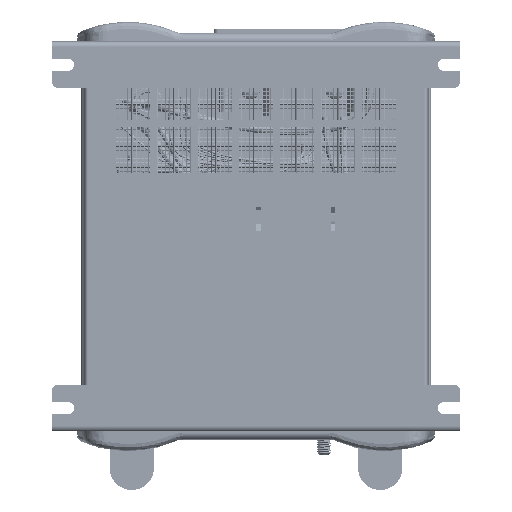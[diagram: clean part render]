
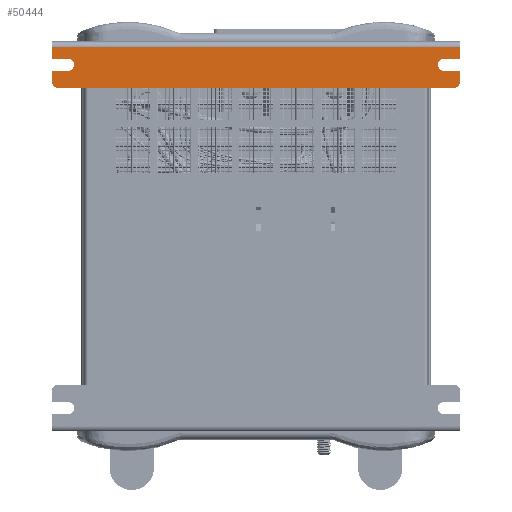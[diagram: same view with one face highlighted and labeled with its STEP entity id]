
A CAD part, front view. The second image highlights one B-rep face of the part: STEP entity #50444.
In plain terms, the highlighted planar face has unit normal (0, -1, 0).
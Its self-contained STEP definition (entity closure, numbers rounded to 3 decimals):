
#48768=DIRECTION('',(0.,0.,1.));
#48769=VECTOR('',#48768,5.2);
#48770=CARTESIAN_POINT('',(87.5,-22.,-6.4));
#48771=LINE('',#48770,#48769);
#48785=DIRECTION('',(0.,0.,1.));
#48786=VECTOR('',#48785,4.4);
#48787=CARTESIAN_POINT('',(87.5,-22.,-16.));
#48788=LINE('',#48787,#48786);
#48797=CARTESIAN_POINT('',(-84.5,-22.,-16.));
#48798=DIRECTION('',(0.,-1.,0.));
#48799=DIRECTION('',(-1.,0.,0.));
#48800=AXIS2_PLACEMENT_3D('',#48797,#48798,#48799);
#48802=DIRECTION('',(1.,0.,0.));
#48803=VECTOR('',#48802,7.);
#48804=CARTESIAN_POINT('',(-87.5,-22.,-11.6));
#48805=LINE('',#48804,#48803);
#48806=CARTESIAN_POINT('',(-80.5,-22.,-9.));
#48807=DIRECTION('',(0.,1.,0.));
#48808=DIRECTION('',(0.,0.,1.));
#48809=AXIS2_PLACEMENT_3D('',#48806,#48807,#48808);
#48811=DIRECTION('',(1.,0.,0.));
#48812=VECTOR('',#48811,7.);
#48813=CARTESIAN_POINT('',(-87.5,-22.,-6.4));
#48814=LINE('',#48813,#48812);
#48815=DIRECTION('',(1.,0.,0.));
#48816=VECTOR('',#48815,175.);
#48817=CARTESIAN_POINT('',(-87.5,-22.,-1.2));
#48818=LINE('',#48817,#48816);
#48819=DIRECTION('',(-1.,0.,0.));
#48820=VECTOR('',#48819,7.);
#48821=CARTESIAN_POINT('',(87.5,-22.,-6.4));
#48822=LINE('',#48821,#48820);
#48823=CARTESIAN_POINT('',(80.5,-22.,-9.));
#48824=DIRECTION('',(0.,1.,0.));
#48825=DIRECTION('',(0.,0.,-1.));
#48826=AXIS2_PLACEMENT_3D('',#48823,#48824,#48825);
#48828=DIRECTION('',(-1.,0.,0.));
#48829=VECTOR('',#48828,7.);
#48830=CARTESIAN_POINT('',(87.5,-22.,-11.6));
#48831=LINE('',#48830,#48829);
#48832=CARTESIAN_POINT('',(84.5,-22.,-16.));
#48833=DIRECTION('',(0.,-1.,0.));
#48834=DIRECTION('',(0.,0.,-1.));
#48835=AXIS2_PLACEMENT_3D('',#48832,#48833,#48834);
#48837=DIRECTION('',(1.,0.,0.));
#48838=VECTOR('',#48837,169.);
#48839=CARTESIAN_POINT('',(-84.5,-22.,-19.));
#48840=LINE('',#48839,#48838);
#48936=DIRECTION('',(0.,0.,-1.));
#48937=VECTOR('',#48936,5.2);
#48938=CARTESIAN_POINT('',(-87.5,-22.,-1.2));
#48939=LINE('',#48938,#48937);
#48948=DIRECTION('',(0.,0.,-1.));
#48949=VECTOR('',#48948,4.4);
#48950=CARTESIAN_POINT('',(-87.5,-22.,-11.6));
#48951=LINE('',#48950,#48949);
#49532=CARTESIAN_POINT('',(-87.5,-22.,-6.4));
#49534=VERTEX_POINT('',#49532);
#49536=CARTESIAN_POINT('',(-87.5,-22.,-11.6));
#49538=VERTEX_POINT('',#49536);
#49540=CARTESIAN_POINT('',(-80.5,-22.,-6.4));
#49541=VERTEX_POINT('',#49540);
#49542=CARTESIAN_POINT('',(-80.5,-22.,-11.6));
#49543=VERTEX_POINT('',#49542);
#49544=CARTESIAN_POINT('',(87.5,-22.,-11.6));
#49545=CARTESIAN_POINT('',(80.5,-22.,-11.6));
#49546=VERTEX_POINT('',#49544);
#49547=VERTEX_POINT('',#49545);
#49548=CARTESIAN_POINT('',(80.5,-22.,-6.4));
#49549=VERTEX_POINT('',#49548);
#49550=CARTESIAN_POINT('',(87.5,-22.,-6.4));
#49551=VERTEX_POINT('',#49550);
#49564=CARTESIAN_POINT('',(87.5,-22.,-1.2));
#49565=VERTEX_POINT('',#49564);
#49566=CARTESIAN_POINT('',(-87.5,-22.,-1.2));
#49567=VERTEX_POINT('',#49566);
#49848=CARTESIAN_POINT('',(-87.5,-22.,-16.));
#49849=VERTEX_POINT('',#49848);
#49850=CARTESIAN_POINT('',(-84.5,-22.,-19.));
#49851=VERTEX_POINT('',#49850);
#49856=CARTESIAN_POINT('',(84.5,-22.,-19.));
#49857=VERTEX_POINT('',#49856);
#49858=CARTESIAN_POINT('',(87.5,-22.,-16.));
#49859=VERTEX_POINT('',#49858);
#50412=CARTESIAN_POINT('',(-87.5,-22.,0.));
#50413=DIRECTION('',(0.,-1.,0.));
#50414=DIRECTION('',(1.,0.,0.));
#50415=AXIS2_PLACEMENT_3D('',#50412,#50413,#50414);
#50416=PLANE('',#50415);
#50418=ORIENTED_EDGE('',*,*,#50417,.F.);
#50420=ORIENTED_EDGE('',*,*,#50419,.F.);
#50422=ORIENTED_EDGE('',*,*,#50421,.T.);
#50424=ORIENTED_EDGE('',*,*,#50423,.F.);
#50426=ORIENTED_EDGE('',*,*,#50425,.F.);
#50428=ORIENTED_EDGE('',*,*,#50427,.F.);
#50430=ORIENTED_EDGE('',*,*,#50429,.T.);
#50431=ORIENTED_EDGE('',*,*,#50367,.F.);
#50432=ORIENTED_EDGE('',*,*,#50402,.T.);
#50434=ORIENTED_EDGE('',*,*,#50433,.F.);
#50436=ORIENTED_EDGE('',*,*,#50435,.F.);
#50437=ORIENTED_EDGE('',*,*,#50388,.F.);
#50439=ORIENTED_EDGE('',*,*,#50438,.F.);
#50441=ORIENTED_EDGE('',*,*,#50440,.F.);
#50442=EDGE_LOOP('',(#50418,#50420,#50422,#50424,#50426,#50428,#50430,#50431,
#50432,#50434,#50436,#50437,#50439,#50441));
#50443=FACE_OUTER_BOUND('',#50442,.F.);
#50444=ADVANCED_FACE('',(#50443),#50416,.T.);
#48801=CIRCLE('',#48800,3.);
#48810=CIRCLE('',#48809,2.6);
#48827=CIRCLE('',#48826,2.6);
#48836=CIRCLE('',#48835,3.);
#50367=EDGE_CURVE('',#49551,#49565,#48771,.T.);
#50388=EDGE_CURVE('',#49859,#49546,#48788,.T.);
#50402=EDGE_CURVE('',#49551,#49549,#48822,.T.);
#50417=EDGE_CURVE('',#49849,#49851,#48801,.T.);
#50419=EDGE_CURVE('',#49538,#49849,#48951,.T.);
#50421=EDGE_CURVE('',#49538,#49543,#48805,.T.);
#50423=EDGE_CURVE('',#49541,#49543,#48810,.T.);
#50425=EDGE_CURVE('',#49534,#49541,#48814,.T.);
#50427=EDGE_CURVE('',#49567,#49534,#48939,.T.);
#50429=EDGE_CURVE('',#49567,#49565,#48818,.T.);
#50433=EDGE_CURVE('',#49547,#49549,#48827,.T.);
#50435=EDGE_CURVE('',#49546,#49547,#48831,.T.);
#50438=EDGE_CURVE('',#49857,#49859,#48836,.T.);
#50440=EDGE_CURVE('',#49851,#49857,#48840,.T.);
